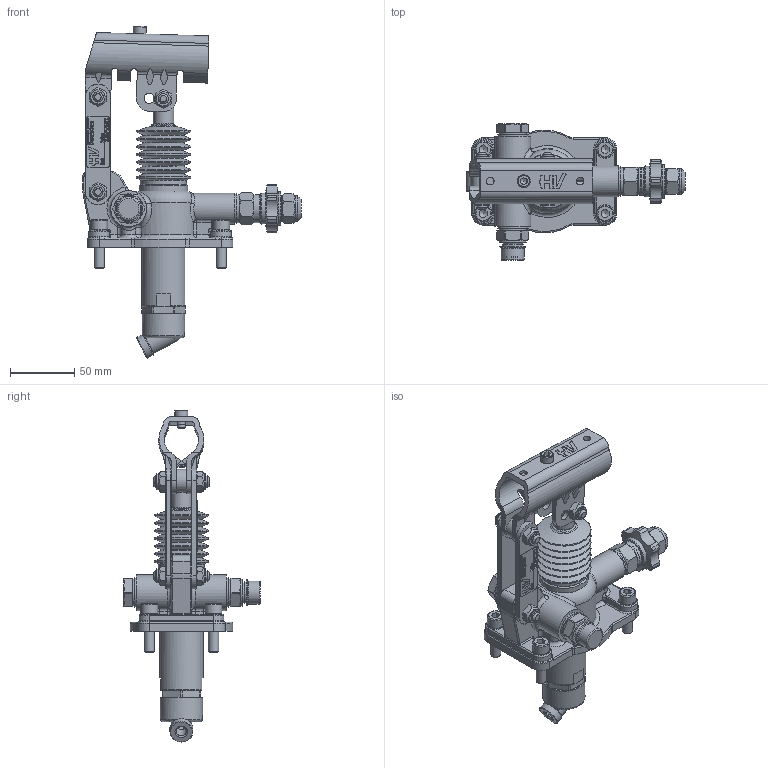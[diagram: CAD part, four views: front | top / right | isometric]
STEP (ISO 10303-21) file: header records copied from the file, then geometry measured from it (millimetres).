
FILE_DESCRIPTION((''),'2;1');
FILE_NAME('G:\HV_HYDRAULIC\AZIENDA_HV_HYDRAULIC\ARCHIVIO_DISEGNI\5_PRODOTTI_FINITI\1_POMPE_MANUALI\6049_PM_6\6049.0144_PM_6_byC-s_(HV)\6049.0144.stp','2024-02-27T16:05:50',('christian.scardovi'),(''),'Autodesk Inventor 2013','Autodesk Inventor 2013','');
FILE_SCHEMA(('AUTOMOTIVE_DESIGN { 1 0 10303 214 1 1 1 1 }'));
Length unit declared in the file: millimetre
Products named in the file (1): 6049.0144
Bounding box: 170.5 x 106.5 x 258.54 mm (x, y, z)
Volume: 2461.3 mm3; surface area: 138312.2 mm2
Topology: 30 solids, 31 shells, 1629 faces, 4029 edges, 2544 vertices
Faces by surface type: plane 759, cylinder 347, bspline 191, cone 189, torus 128, sphere 15
Full cylindrical faces by diameter (mm): 5 x5, 6 x4, 6.5 x2, 8 x26, 8.5 x4, 9 x3, 9.2 x1, 10 x7, 11.05 x6, 12 x5, 13 x4, 13.2 x1, 14 x4, 14.95 x5, 15 x2, 16 x7, 16.6 x2, 17 x3, 18 x6, 18.1 x1, 20 x4, 20.6 x2, 21 x3, 21.8 x2, 22 x1, 22.4 x2, 23 x5, 24 x2, 24.5 x1, 26 x1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
Entity records: 49794 total; most frequent: CARTESIAN_POINT 12575, ORIENTED_EDGE 7146, DIRECTION 6845, EDGE_CURVE 3573, AXIS2_PLACEMENT_3D 2502, VERTEX_POINT 2437, EDGE_LOOP 2140, VECTOR 1841
